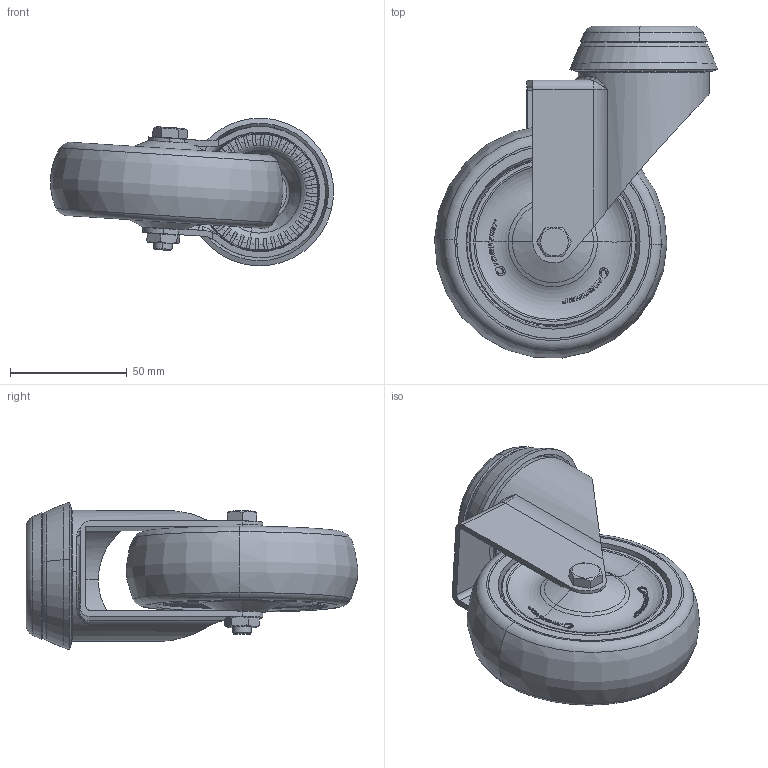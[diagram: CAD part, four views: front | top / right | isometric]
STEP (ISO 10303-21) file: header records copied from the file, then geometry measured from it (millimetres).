
FILE_DESCRIPTION (( 'STEP AP203' ), '1' );
FILE_NAME ('300012_STEP.STEP', '2013-07-29T10:12:10', ( 'admin' ), ( 'Hewlett-Packard Company' ), 'SwSTEP 2.0', 'SolidWorks 2011', '' );
FILE_SCHEMA (( 'CONFIG_CONTROL_DESIGN' ));
Length unit declared in the file: millimetre
Products named in the file (1): 300012_STEP
Bounding box: 121.44 x 142.44 x 63.32 mm (x, y, z)
Volume: 200022.4 mm3; surface area: 116241.2 mm2
Topology: 12 solids, 12 shells, 1386 faces, 3702 edges, 2415 vertices
Faces by surface type: plane 789, cylinder 406, cone 92, torus 87, bspline 12
Entity records: 46835 total; most frequent: CARTESIAN_POINT 13399, ORIENTED_EDGE 7398, DIRECTION 6326, EDGE_CURVE 3699, VERTEX_POINT 2415, AXIS2_PLACEMENT_3D 2266, VECTOR 1794, LINE 1794
